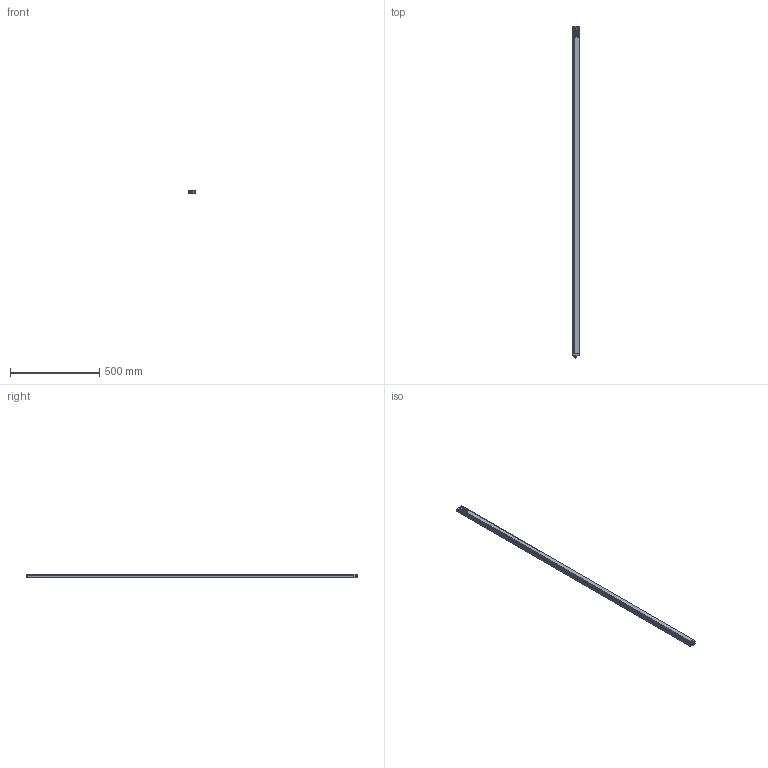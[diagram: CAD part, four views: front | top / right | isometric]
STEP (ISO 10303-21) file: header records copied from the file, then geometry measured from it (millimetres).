
FILE_DESCRIPTION(/* description */ (''),/* implementation_level */ '2;1');
FILE_NAME(/* name */ 'C:\Users\andre\SynologyDrive\Optoscan\Libreria Componenti\00 - Barriere\Polaris sorgente\Polaris_1820_TX.stp',/* time_stamp */ '2021-06-04T11:08:15+02:00',/* author */ ('andre'),/* organization */ (''),/* preprocessor_version */ 'ST-DEVELOPER v18',/* originating_system */ 'Autodesk Inventor 2020',/* authorisation */ '');
FILE_SCHEMA (('AUTOMOTIVE_DESIGN { 1 0 10303 214 3 1 1 }'));
Length unit declared in the file: millimetre
Products named in the file (1): Polaris_1820_TX
Bounding box: 40.5 x 1856.8 x 20.75 mm (x, y, z)
Volume: 365271.8 mm3; surface area: 482862 mm2
Topology: 1 solids, 1 shells, 738 faces, 2048 edges, 1320 vertices
Faces by surface type: plane 331, cylinder 207, bspline 115, torus 71, cone 8, sphere 6
Full cylindrical faces by diameter (mm): 1 x8, 2.459 x4, 2.5 x4, 3 x4, 3.5 x4, 5.5 x4, 8 x1, 10.5 x2, 11.75 x9, 12 x1, 12.3 x2, 14.5 x1, 16.7 x1, 17.5 x1
Entity records: 30426 total; most frequent: CARTESIAN_POINT 11243, ORIENTED_EDGE 4082, DIRECTION 3549, EDGE_CURVE 2041, VERTEX_POINT 1321, AXIS2_PLACEMENT_3D 1243, LINE 1063, VECTOR 1063
